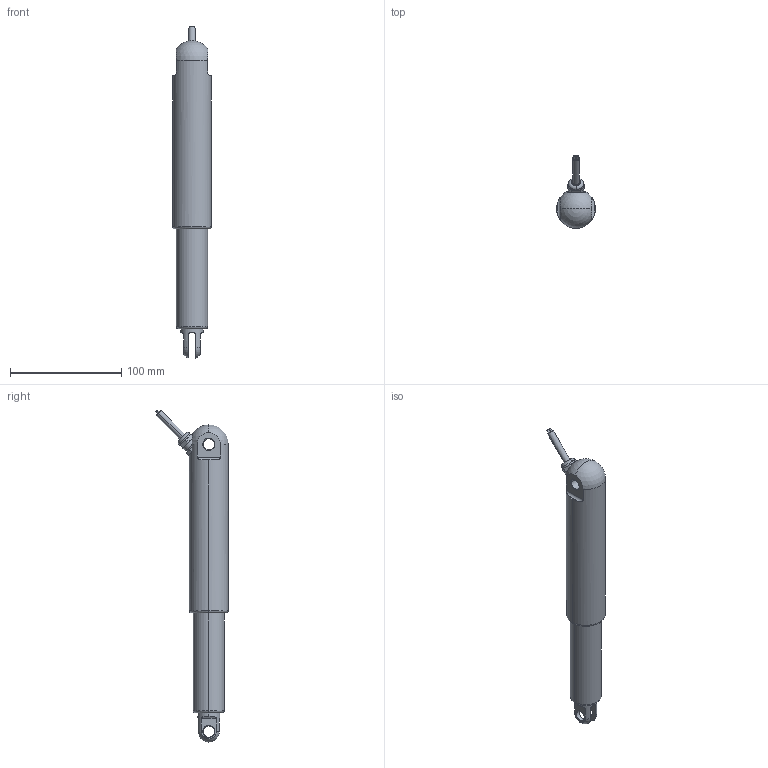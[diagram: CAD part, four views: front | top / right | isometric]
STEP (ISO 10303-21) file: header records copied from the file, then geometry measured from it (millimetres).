
FILE_DESCRIPTION((''),'2;1');
FILE_NAME('ST35-50MM-208','2016-12-15T',('Aklek'),(''),'PRO/ENGINEER BY PARAMETRIC TECHNOLOGY CORPORATION, 2010100','PRO/ENGINEER BY PARAMETRIC TECHNOLOGY CORPORATION, 2010100','');
FILE_SCHEMA(('CONFIG_CONTROL_DESIGN'));
Length unit declared in the file: millimetre
Products named in the file (1): ST35-50MM-208
Bounding box: 35 x 65.28 x 298.2 mm (x, y, z)
Volume: 212980.9 mm3; surface area: 31253.8 mm2
Topology: 1 solids, 1 shells, 111 faces, 273 edges, 171 vertices
Faces by surface type: cylinder 47, plane 35, torus 10, cone 8, bspline 7, sphere 4
Entity records: 3732 total; most frequent: CARTESIAN_POINT 1029, DIRECTION 584, ORIENTED_EDGE 542, EDGE_CURVE 271, AXIS2_PLACEMENT_3D 236, VERTEX_POINT 171, CIRCLE 132, EDGE_LOOP 126
